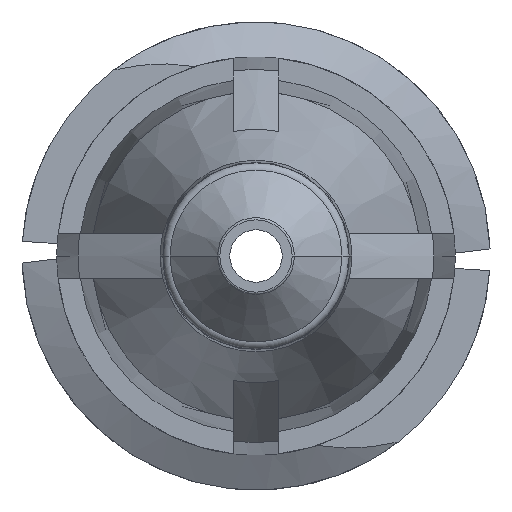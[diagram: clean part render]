
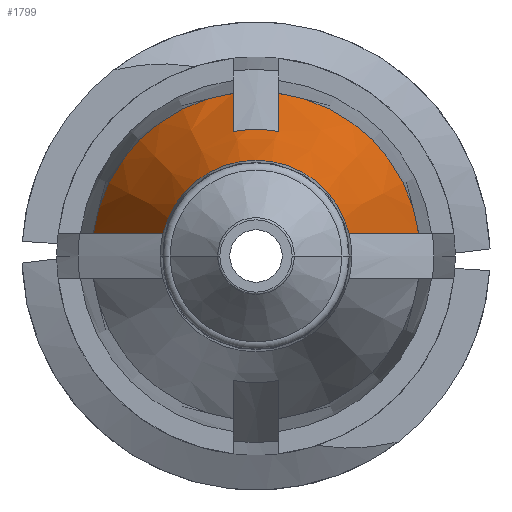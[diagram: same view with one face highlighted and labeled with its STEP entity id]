
A CAD part, front view. The second image highlights one B-rep face of the part: STEP entity #1799.
In plain terms, the highlighted conical face has half-angle 20 degrees and reference radius 2.745 mm.
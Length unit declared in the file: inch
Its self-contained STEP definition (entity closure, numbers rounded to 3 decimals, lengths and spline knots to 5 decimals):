
#7 = DIRECTION ( 'NONE',  ( 0., 1., 0. ) ) ;
#62 = VERTEX_POINT ( 'NONE', #1291 ) ;
#68 = DIRECTION ( 'NONE',  ( 0., 1., 0. ) ) ;
#81 = CARTESIAN_POINT ( 'NONE',  ( 0.06119, -0.52985, 0.015 ) ) ;
#151 = CIRCLE ( 'NONE', #1251, 0.10808 ) ;
#276 = B_SPLINE_CURVE_WITH_KNOTS ( 'NONE', 3,
 ( #1654, #2701, #344, #1926 ),
 .UNSPECIFIED., .F., .F.,
 ( 4, 4 ),
 ( 0.00343, 0.00527 ),
 .UNSPECIFIED. ) ;
#328 = DIRECTION ( 'NONE',  ( -1., 0., 0. ) ) ;
#335 = ORIENTED_EDGE ( 'NONE', *, *, #3003, .T. ) ;
#344 = CARTESIAN_POINT ( 'NONE',  ( -0.015, -0.45131, 0.09036 ) ) ;
#352 = CARTESIAN_POINT ( 'NONE',  ( 0.07664, -0.48863, 0.015 ) ) ;
#412 = VERTEX_POINT ( 'NONE', #1345 ) ;
#426 = CARTESIAN_POINT ( 'NONE',  ( 0.015, -0.406, 0.10703 ) ) ;
#481 = VERTEX_POINT ( 'NONE', #2169 ) ;
#482 = B_SPLINE_CURVE_WITH_KNOTS ( 'NONE', 3,
 ( #2813, #2081, #2017, #2834 ),
 .UNSPECIFIED., .F., .F.,
 ( 4, 4 ),
 ( 0.00282, 0.00617 ),
 .UNSPECIFIED. ) ;
#579 = CARTESIAN_POINT ( 'NONE',  ( 0., -0.406, 0. ) ) ;
#606 = CARTESIAN_POINT ( 'NONE',  ( 0.10703, -0.406, 0.015 ) ) ;
#696 = ORIENTED_EDGE ( 'NONE', *, *, #3228, .T. ) ;
#721 = CARTESIAN_POINT ( 'NONE',  ( 0., -0.406, 0. ) ) ;
#868 = ORIENTED_EDGE ( 'NONE', *, *, #1733, .F. ) ;
#1026 = DIRECTION ( 'NONE',  ( 0., 1., 0. ) ) ;
#1082 = CARTESIAN_POINT ( 'NONE',  ( 0.015, -0.45131, 0.09036 ) ) ;
#1091 = CARTESIAN_POINT ( 'NONE',  ( 0.10703, -0.406, 0.015 ) ) ;
#1139 = CARTESIAN_POINT ( 'NONE',  ( -0.10703, -0.406, 0.015 ) ) ;
#1171 = B_SPLINE_CURVE_WITH_KNOTS ( 'NONE', 3,
 ( #81, #352, #1336, #1091 ),
 .UNSPECIFIED., .F., .F.,
 ( 4, 4 ),
 ( 0.00282, 0.00617 ),
 .UNSPECIFIED. ) ;
#1176 = CIRCLE ( 'NONE', #1344, 0.10808 ) ;
#1197 = VERTEX_POINT ( 'NONE', #1748 ) ;
#1251 = AXIS2_PLACEMENT_3D ( 'NONE', #721, #3080, #3368 ) ;
#1291 = CARTESIAN_POINT ( 'NONE',  ( 0.015, -0.47395, 0.08198 ) ) ;
#1307 = AXIS2_PLACEMENT_3D ( 'NONE', #3406, #2561, #2036 ) ;
#1311 = CARTESIAN_POINT ( 'NONE',  ( 0.015, -0.42866, 0.0987 ) ) ;
#1333 = EDGE_CURVE ( 'NONE', #2819, #2478, #482, .T. ) ;
#1336 = CARTESIAN_POINT ( 'NONE',  ( 0.09185, -0.44732, 0.015 ) ) ;
#1344 = AXIS2_PLACEMENT_3D ( 'NONE', #579, #68, #2635 ) ;
#1345 = CARTESIAN_POINT ( 'NONE',  ( -0.015, -0.406, 0.10703 ) ) ;
#1456 = EDGE_CURVE ( 'NONE', #412, #1197, #276, .T. ) ;
#1505 = B_SPLINE_CURVE_WITH_KNOTS ( 'NONE', 3,
 ( #1616, #1082, #1311, #2896 ),
 .UNSPECIFIED., .F., .F.,
 ( 4, 4 ),
 ( 0.00247, 0.00431 ),
 .UNSPECIFIED. ) ;
#1585 = CARTESIAN_POINT ( 'NONE',  ( 0., -0.406, 0. ) ) ;
#1607 = ORIENTED_EDGE ( 'NONE', *, *, #1333, .F. ) ;
#1616 = CARTESIAN_POINT ( 'NONE',  ( 0.015, -0.47395, 0.08198 ) ) ;
#1634 = FACE_OUTER_BOUND ( 'NONE', #2252, .T. ) ;
#1654 = CARTESIAN_POINT ( 'NONE',  ( -0.015, -0.406, 0.10703 ) ) ;
#1690 = EDGE_CURVE ( 'NONE', #1197, #62, #2556, .T. ) ;
#1733 = EDGE_CURVE ( 'NONE', #62, #1984, #1505, .T. ) ;
#1748 = CARTESIAN_POINT ( 'NONE',  ( -0.015, -0.47395, 0.08198 ) ) ;
#1799 = ADVANCED_FACE ( 'NONE', ( #1634 ), #2996, .T. ) ;
#1803 = EDGE_CURVE ( 'NONE', #2478, #412, #1176, .T. ) ;
#1926 = CARTESIAN_POINT ( 'NONE',  ( -0.015, -0.47395, 0.08198 ) ) ;
#1945 = AXIS2_PLACEMENT_3D ( 'NONE', #1585, #7, #328 ) ;
#1984 = VERTEX_POINT ( 'NONE', #426 ) ;
#2005 = ORIENTED_EDGE ( 'NONE', *, *, #3277, .F. ) ;
#2009 = ORIENTED_EDGE ( 'NONE', *, *, #1803, .F. ) ;
#2017 = CARTESIAN_POINT ( 'NONE',  ( -0.09185, -0.44732, 0.015 ) ) ;
#2036 = DIRECTION ( 'NONE',  ( -1., 0., 0. ) ) ;
#2044 = DIRECTION ( 'NONE',  ( 1., 0., 0. ) ) ;
#2081 = CARTESIAN_POINT ( 'NONE',  ( -0.07664, -0.48863, 0.015 ) ) ;
#2088 = CARTESIAN_POINT ( 'NONE',  ( -0.06119, -0.52985, 0.015 ) ) ;
#2115 = ORIENTED_EDGE ( 'NONE', *, *, #1456, .F. ) ;
#2169 = CARTESIAN_POINT ( 'NONE',  ( 0.06119, -0.52985, 0.015 ) ) ;
#2252 = EDGE_LOOP ( 'NONE', ( #1607, #696, #335, #2005, #868, #3220, #2115, #2009 ) ) ;
#2478 = VERTEX_POINT ( 'NONE', #1139 ) ;
#2556 = CIRCLE ( 'NONE', #2835, 0.08335 ) ;
#2561 = DIRECTION ( 'NONE',  ( 0., 1., 0. ) ) ;
#2635 = DIRECTION ( 'NONE',  ( -1., 0., 0. ) ) ;
#2701 = CARTESIAN_POINT ( 'NONE',  ( -0.015, -0.42866, 0.0987 ) ) ;
#2792 = CIRCLE ( 'NONE', #1307, 0.063 ) ;
#2813 = CARTESIAN_POINT ( 'NONE',  ( -0.06119, -0.52985, 0.015 ) ) ;
#2819 = VERTEX_POINT ( 'NONE', #2088 ) ;
#2834 = CARTESIAN_POINT ( 'NONE',  ( -0.10703, -0.406, 0.015 ) ) ;
#2835 = AXIS2_PLACEMENT_3D ( 'NONE', #3397, #1026, #2044 ) ;
#2896 = CARTESIAN_POINT ( 'NONE',  ( 0.015, -0.406, 0.10703 ) ) ;
#2948 = VERTEX_POINT ( 'NONE', #606 ) ;
#2996 = CONICAL_SURFACE ( 'NONE', #1945, 0.10808, 0.349 ) ;
#3003 = EDGE_CURVE ( 'NONE', #481, #2948, #1171, .T. ) ;
#3080 = DIRECTION ( 'NONE',  ( 0., 1., 0. ) ) ;
#3220 = ORIENTED_EDGE ( 'NONE', *, *, #1690, .F. ) ;
#3228 = EDGE_CURVE ( 'NONE', #2819, #481, #2792, .T. ) ;
#3277 = EDGE_CURVE ( 'NONE', #1984, #2948, #151, .T. ) ;
#3368 = DIRECTION ( 'NONE',  ( -1., 0., 0. ) ) ;
#3397 = CARTESIAN_POINT ( 'NONE',  ( 0., -0.47395, 0. ) ) ;
#3406 = CARTESIAN_POINT ( 'NONE',  ( 0., -0.52985, 0. ) ) ;
